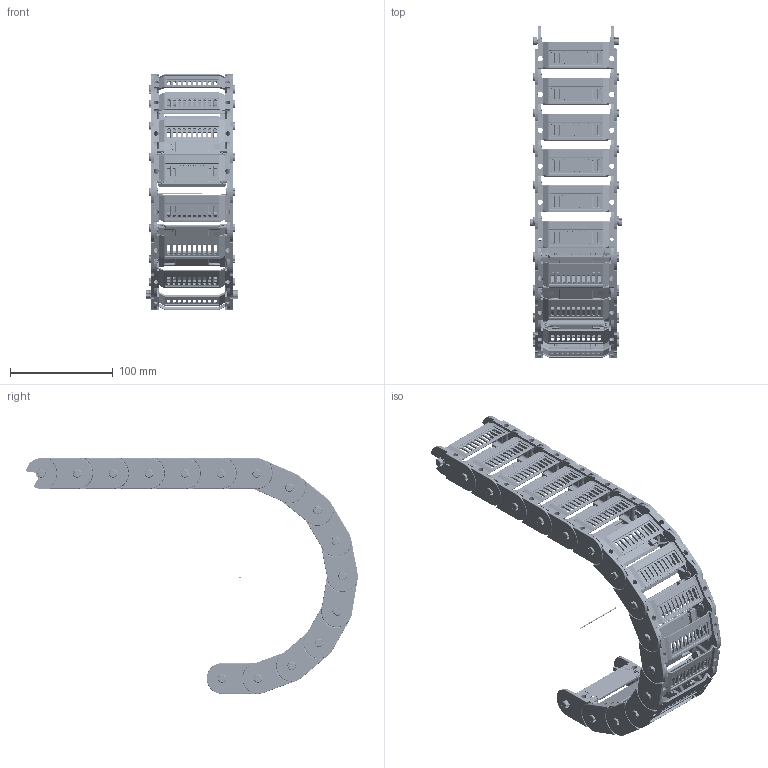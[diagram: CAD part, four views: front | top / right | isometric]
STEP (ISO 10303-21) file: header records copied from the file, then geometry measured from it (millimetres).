
FILE_DESCRIPTION((''),'2;1');
FILE_NAME('C:\Uebbing\PARAMETERKETTEN\KOLIBRI\Kol_30_080_0\KOLIBRI 30_080_0_R100_ELTOLA.stp','2012-03-05T10:22:04',('Uebbing'),(''),'Autodesk Inventor 10','Autodesk Inventor 10','');
FILE_SCHEMA(('AUTOMOTIVE_DESIGN { 1 0 10303 214 1 1 1 1 }'));
Length unit declared in the file: millimetre
Products named in the file (6): KOLIBRI 30_080_0_ELTOLA_PARAMETRISCH; Achse; Kol_30_080_0 ELTOLA_Glied; Kol 30_080_0 Lasche ELTOLA; Kol 30_080_0 Klappsteg; ELTOLA30
Assembly tree (22 placements, depth 3):
  KOLIBRI 30_080_0_ELTOLA_PARAMETRISCH
    Achse
    Kol_30_080_0 ELTOLA_Glied  x15
      Kol 30_080_0 Lasche ELTOLA
      Kol 30_080_0 Klappsteg
      ELTOLA30
    ELTOLA30  x2
Bounding box: 90 x 323.61 x 230 mm (x, y, z)
Volume: 280605.4 mm3; surface area: 266353.7 mm2
Topology: 63 solids, 63 shells, 17999 faces, 49202 edges, 31614 vertices
Faces by surface type: plane 7232, bspline 6083, cylinder 3611, torus 758, sphere 165, cone 150
Full cylindrical faces by diameter (mm): 1 x1, 1.166 x15, 2.048 x15, 2.8 x90, 5.1 x15
Entity records: 43235 total; most frequent: CARTESIAN_POINT 15905, ORIENTED_EDGE 6136, DIRECTION 4919, EDGE_CURVE 3068, VERTEX_POINT 1989, VECTOR 1797, LINE 1797, AXIS2_PLACEMENT_3D 1561
